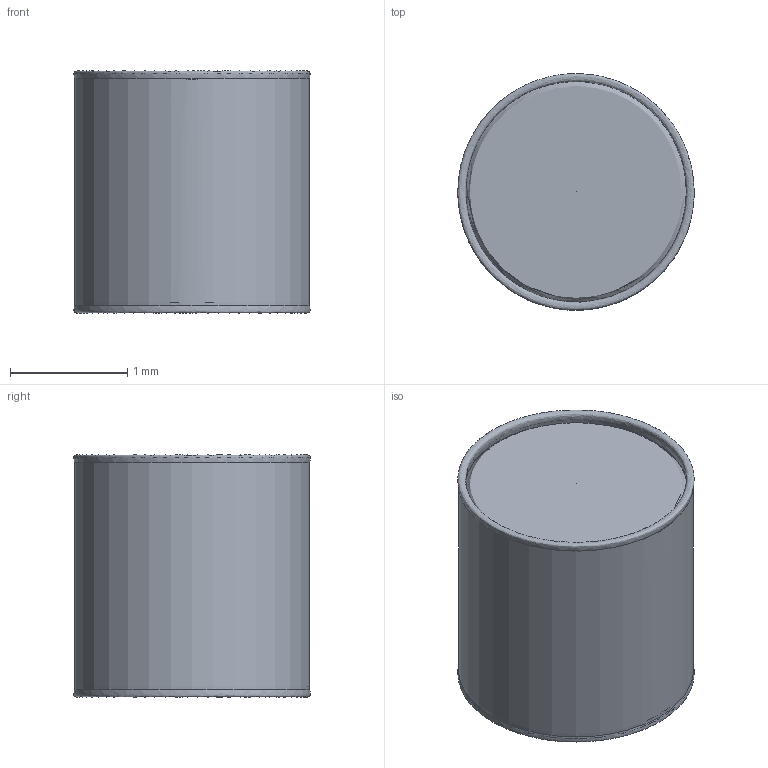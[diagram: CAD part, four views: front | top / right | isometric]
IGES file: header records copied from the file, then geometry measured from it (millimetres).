
Global section: file name: /home/lore/2005/xcmodel_3.2/surfaces/Timpano.igs; native system: XCMODEL ver.3.0 Universita' di Bologna; preprocessor: formato IGES Nov. 2001; date: 060219.231926; units: millimetre
Bounding box: 2.01 x 2.01 x 2.06 mm (x, y, z)
Surface area: 19.5 mm2 (no closed solid volume)
Topology: 0 solids, 0 shells, 5 faces, 15 edges, 10 vertices
Faces by surface type: bspline 5
